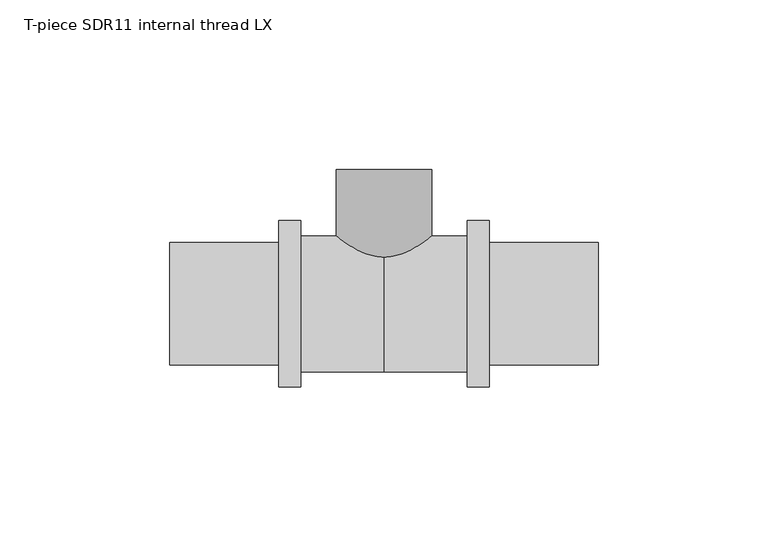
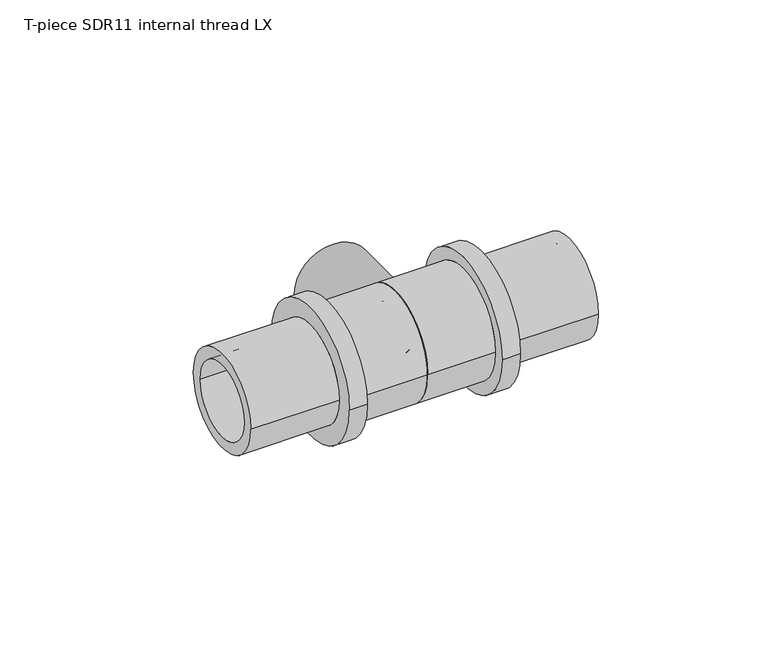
"""IFC4 building model written with IfcOpenShell, lengths in millimetres: pipe fitting geometry, T-piece SDR11 internal thread LX : T-piece LX SDR11 internal LX."""

from ifc_helpers import new_model, si_unit, point, frame, origin, place, context, project, spatial, polyline, circle_curve, ellipse_curve, trimmed, source, transform, mapped, element, save
from ifc_brep_helpers import plane_surface, cylinder_surface, revolved_surface, advanced_brep


def t_piece_sdr11_internal_thread_lx_253700b9(model_context):
    return source(origin(), model_context, "Body", "AdvancedBrep", [
        advanced_brep(
        [(9.85, 9.35, 0.0), (-9.85, 9.35, 0.0), (-9.85, 39.5, 0.0), (9.85, 39.5, 0.0), (0.5, 0.0, 0.0), (-0.5, 0.0, 0.0), (13.2683856, 6.8993993, 0.0), (-13.2683856, 6.8993993, 0.0), (-6.3689863, 0.0, 0.0), (6.3689863, 0.0, 0.0), (14.0, 8.6656727, 0.0), (-14.0, 8.6656727, 0.0), (14.0, 39.5, 0.0), (-14.0, 39.5, 0.0)],
        [
            (0, 1, circle_curve(frame((0.0, 9.35, 0.0), z_axis=(0.0, -1.0, 0.0), x_axis=(-1.0, 0.0, 0.0)), 9.85)),
            (1, 2),
            (2, 3, circle_curve(frame((0.0, 39.5, 0.0), z_axis=(0.0, 1.0, 0.0), x_axis=(-1.0, 0.0, 0.0)), 9.85)),
            (3, 0),
            (4, 5, circle_curve(frame((0.0, 0.0, 0.0), z_axis=(0.0, -1.0, 0.0), x_axis=(-1.0, 0.0, 0.0)), 0.5)),
            (5, 1),
            (0, 4),
            (6, 7, circle_curve(frame((0.0, 6.8993993, 0.0), z_axis=(0.0, -1.0, 0.0), x_axis=(-1.0, 0.0, 0.0)), 13.2683856)),
            (7, 8),
            (8, 9, circle_curve(frame((0.0, 0.0, 0.0), z_axis=(0.0, 1.0, 0.0), x_axis=(-1.0, 0.0, 0.0)), 6.3689863)),
            (9, 6),
            (10, 11, circle_curve(frame((0.0, 8.6656727, 0.0), z_axis=(0.0, -1.0, 0.0), x_axis=(-1.0, 0.0, 0.0)), 14.0)),
            (11, 7, circle_curve(frame((-9.85, 9.35, 0.0), z_axis=(0.0, 0.0, 1.0), x_axis=(0.0, 1.0, 0.0)), 4.2060437)),
            (6, 10, circle_curve(frame((9.85, 9.35, 0.0), z_axis=(0.0, 0.0, 1.0), x_axis=(0.0, 1.0, 0.0)), 4.2060437)),
            (12, 13, circle_curve(frame((0.0, 39.5, 0.0), z_axis=(0.0, -1.0, 0.0), x_axis=(-1.0, 0.0, 0.0)), 14.0)),
            (13, 11),
            (10, 12),
            (12, 13, circle_curve(frame((0.0, 39.5, 0.0), z_axis=(0.0, 1.0, 0.0), x_axis=(1.0, 0.0, 0.0)), 14.0)),
            (2, 3, circle_curve(frame((0.0, 39.5, 0.0), z_axis=(0.0, -1.0, 0.0), x_axis=(1.0, 0.0, 0.0)), 9.85)),
            (1, 0, circle_curve(frame((0.0, 9.35, 0.0), z_axis=(0.0, -1.0, 0.0), x_axis=(1.0, 0.0, 0.0)), 9.85)),
            (5, 4, circle_curve(frame((0.0, 0.0, 0.0), z_axis=(0.0, -1.0, 0.0), x_axis=(1.0, 0.0, 0.0)), 0.5)),
            (8, 9, circle_curve(frame((0.0, 0.0, 0.0), z_axis=(0.0, -1.0, 0.0), x_axis=(1.0, 0.0, 0.0)), 6.3689863)),
            (7, 6, circle_curve(frame((0.0, 6.8993993, 0.0), z_axis=(0.0, -1.0, 0.0), x_axis=(1.0, 0.0, 0.0)), 13.2683856)),
            (11, 10, circle_curve(frame((0.0, 8.6656727, 0.0), z_axis=(0.0, -1.0, 0.0), x_axis=(1.0, 0.0, 0.0)), 14.0)),
        ],
        [
            revolved_surface(polyline([(-9.85, 39.5, 0.0), (-9.85, 9.35, 0.0)]), (0.0, 0.0, 0.0), (0.0, 1.0, 0.0)),
            revolved_surface(polyline([(-9.85, 9.35, 0.0), (-0.5, 0.0, 0.0)]), (0.0, 0.0, 0.0), (0.0, 1.0, 0.0)),
            revolved_surface(polyline([(-6.3689863, 0.0, 0.0), (-13.2683856, 6.8993993, 0.0)]), (0.0, 0.0, 0.0), (0.0, 1.0, 0.0)),
            revolved_surface(trimmed(ellipse_curve(frame((-9.85, 9.35, 0.0), z_axis=(0.0, 0.0, -1.0), x_axis=(0.0, 1.0, 0.0)), 4.2060437, 4.2060437), [point((-13.2683856, 6.8993993, 0.0))], [point((-14.0, 8.6656727, 0.0))], True, "CARTESIAN"), (0.0, 0.0, 0.0), (0.0, 1.0, 0.0)),
            cylinder_surface(frame((0.0, 0.0, 0.0), z_axis=(0.0, 1.0, 0.0), x_axis=(-1.0, 0.0, 0.0)), 14.0),
            plane_surface(frame((0.0, 39.5, 0.0), z_axis=(0.0, 1.0, 0.0), x_axis=(1.0, 0.0, 0.0))),
            revolved_surface(polyline([(9.85, 39.5, 0.0), (9.85, 9.35, 0.0)]), (0.0, 0.0, 0.0), (0.0, 1.0, 0.0)),
            revolved_surface(polyline([(9.85, 9.35, 0.0), (0.5, 0.0, 0.0)]), (0.0, 0.0, 0.0), (0.0, 1.0, 0.0)),
            plane_surface(frame((0.0, 0.0, 0.0), z_axis=(0.0, -1.0, 0.0), x_axis=(1.0, 0.0, 0.0))),
            revolved_surface(polyline([(6.3689863, 0.0, 0.0), (13.2683856, 6.8993993, 0.0)]), (0.0, 0.0, 0.0), (0.0, 1.0, 0.0)),
            revolved_surface(trimmed(ellipse_curve(frame((9.85, 9.35, 0.0), z_axis=(0.0, 0.0, 1.0), x_axis=(0.0, 1.0, 0.0)), 4.2060437, 4.2060437), [point((13.2683856, 6.8993993, 0.0))], [point((14.0, 8.6656727, 0.0))], True, "CARTESIAN"), (0.0, 0.0, 0.0), (0.0, 1.0, 0.0)),
            cylinder_surface(frame((0.0, 0.0, 0.0), z_axis=(0.0, 1.0, 0.0), x_axis=(1.0, 0.0, 0.0)), 14.0),
        ],
        [
            (0, [[1, 2, 3, 4]]),
            (1, [[5, 6, -1, 7]]),
            (2, [[8, 9, 10, 11]]),
            (3, [[12, 13, -8, 14]]),
            (4, [[15, 16, -12, 17]]),
            (5, [[18, -15], [19, -3]]),
            (6, [[20, -4, -19, -2]]),
            (7, [[21, -7, -20, -6]]),
            (8, [[22, -10], [-21, -5]]),
            (9, [[23, -11, -22, -9]]),
            (10, [[24, -14, -23, -13]]),
            (11, [[-18, -17, -24, -16]]),
        ],
    ),
        advanced_brep(
        [(31.0, 24.5, 0.0), (31.0, -24.5, 0.0), (24.5, -24.5, 0.0), (24.5, 24.5, 0.0), (63.0, 18.0, 0.0), (63.0, -18.0, 0.0), (31.0, -18.0, 0.0), (31.0, 18.0, 0.0), (0.0, 13.75, 0.0), (0.0, -13.75, 0.0), (63.0, -13.75, 0.0), (63.0, 13.75, 0.0), (24.5, 20.0, 0.0), (24.5, -20.0, 0.0), (0.0, -20.0, 0.0), (0.0, 20.0, 0.0)],
        [
            (0, 1, circle_curve(frame((31.0, 0.0, 0.0), z_axis=(-1.0, 0.0, 0.0), x_axis=(0.0, -1.0, 0.0)), 24.5)),
            (1, 2),
            (2, 3, circle_curve(frame((24.5, 0.0, 0.0), z_axis=(1.0, 0.0, 0.0), x_axis=(0.0, -1.0, 0.0)), 24.5)),
            (3, 0),
            (4, 5, circle_curve(frame((63.0, 0.0, 0.0), z_axis=(-1.0, 0.0, 0.0), x_axis=(0.0, -1.0, 0.0)), 18.0)),
            (5, 6),
            (6, 7, circle_curve(frame((31.0, 0.0, 0.0), z_axis=(1.0, 0.0, 0.0), x_axis=(0.0, -1.0, 0.0)), 18.0)),
            (7, 4),
            (8, 9, circle_curve(frame((0.0, 0.0, 0.0), z_axis=(-1.0, 0.0, 0.0), x_axis=(0.0, -1.0, 0.0)), 13.75)),
            (9, 10),
            (10, 11, circle_curve(frame((63.0, 0.0, 0.0), z_axis=(1.0, 0.0, 0.0), x_axis=(0.0, -1.0, 0.0)), 13.75)),
            (11, 8),
            (12, 13, circle_curve(frame((24.5, 0.0, 0.0), z_axis=(-1.0, 0.0, 0.0), x_axis=(0.0, -1.0, 0.0)), 20.0)),
            (13, 14),
            (14, 15, circle_curve(frame((0.0, 0.0, 0.0), z_axis=(1.0, 0.0, 0.0), x_axis=(0.0, -1.0, 0.0)), 20.0)),
            (15, 12),
            (1, 0, circle_curve(frame((31.0, 0.0, 0.0), z_axis=(-1.0, 0.0, 0.0), x_axis=(0.0, 1.0, 0.0)), 24.5)),
            (3, 2, circle_curve(frame((24.5, 0.0, 0.0), z_axis=(1.0, 0.0, 0.0), x_axis=(0.0, 1.0, 0.0)), 24.5)),
            (6, 7, circle_curve(frame((31.0, 0.0, 0.0), z_axis=(-1.0, 0.0, 0.0), x_axis=(0.0, 1.0, 0.0)), 18.0)),
            (5, 4, circle_curve(frame((63.0, 0.0, 0.0), z_axis=(-1.0, 0.0, 0.0), x_axis=(0.0, 1.0, 0.0)), 18.0)),
            (10, 11, circle_curve(frame((63.0, 0.0, 0.0), z_axis=(-1.0, 0.0, 0.0), x_axis=(0.0, 1.0, 0.0)), 13.75)),
            (9, 8, circle_curve(frame((0.0, 0.0, 0.0), z_axis=(-1.0, 0.0, 0.0), x_axis=(0.0, 1.0, 0.0)), 13.75)),
            (14, 15, circle_curve(frame((0.0, 0.0, 0.0), z_axis=(-1.0, 0.0, 0.0), x_axis=(0.0, 1.0, 0.0)), 20.0)),
            (13, 12, circle_curve(frame((24.5, 0.0, 0.0), z_axis=(-1.0, 0.0, 0.0), x_axis=(0.0, 1.0, 0.0)), 20.0)),
        ],
        [
            cylinder_surface(frame((0.0, 0.0, 0.0), z_axis=(1.0, 0.0, 0.0), x_axis=(0.0, -1.0, 0.0)), 24.5),
            cylinder_surface(frame((0.0, 0.0, 0.0), z_axis=(1.0, 0.0, 0.0), x_axis=(0.0, -1.0, 0.0)), 18.0),
            revolved_surface(polyline([(63.0, -13.75, 0.0), (0.0, -13.75, 0.0)]), (0.0, 0.0, 0.0), (1.0, 0.0, 0.0)),
            cylinder_surface(frame((0.0, 0.0, 0.0), z_axis=(1.0, 0.0, 0.0), x_axis=(0.0, -1.0, 0.0)), 20.0),
            cylinder_surface(frame((0.0, 0.0, 0.0), z_axis=(1.0, 0.0, 0.0), x_axis=(0.0, 1.0, 0.0)), 24.5),
            plane_surface(frame((31.0, 0.0, 0.0), z_axis=(1.0, 0.0, 0.0), x_axis=(0.0, 1.0, 0.0))),
            cylinder_surface(frame((0.0, 0.0, 0.0), z_axis=(1.0, 0.0, 0.0), x_axis=(0.0, 1.0, 0.0)), 18.0),
            plane_surface(frame((63.0, 0.0, 0.0), z_axis=(1.0, 0.0, 0.0), x_axis=(0.0, 1.0, 0.0))),
            revolved_surface(polyline([(63.0, 13.75, 0.0), (0.0, 13.75, 0.0)]), (0.0, 0.0, 0.0), (1.0, 0.0, 0.0)),
            plane_surface(frame((0.0, 0.0, 0.0), z_axis=(-1.0, 0.0, 0.0), x_axis=(0.0, 1.0, 0.0))),
            cylinder_surface(frame((0.0, 0.0, 0.0), z_axis=(1.0, 0.0, 0.0), x_axis=(0.0, 1.0, 0.0)), 20.0),
            plane_surface(frame((24.5, 0.0, 0.0), z_axis=(-1.0, 0.0, 0.0), x_axis=(0.0, 1.0, 0.0))),
        ],
        [
            (0, [[1, 2, 3, 4]]),
            (1, [[5, 6, 7, 8]]),
            (2, [[9, 10, 11, 12]]),
            (3, [[13, 14, 15, 16]]),
            (4, [[17, -4, 18, -2]]),
            (5, [[-17, -1], [19, -7]]),
            (6, [[20, -8, -19, -6]]),
            (7, [[-20, -5], [21, -11]]),
            (8, [[22, -12, -21, -10]]),
            (9, [[23, -15], [-22, -9]]),
            (10, [[24, -16, -23, -14]]),
            (11, [[-18, -3], [-24, -13]]),
        ],
    ),
        advanced_brep(
        [(0.0, 20.0, 0.0), (0.0, -20.0, 0.0), (-24.5, -20.0, 0.0), (-24.5, 20.0, 0.0), (-63.0, 13.75, 0.0), (-63.0, -13.75, 0.0), (0.0, -13.75, 0.0), (0.0, 13.75, 0.0), (-31.0, 18.0, 0.0), (-31.0, -18.0, 0.0), (-63.0, -18.0, 0.0), (-63.0, 18.0, 0.0), (-24.5, 24.5, 0.0), (-24.5, -24.5, 0.0), (-31.0, -24.5, 0.0), (-31.0, 24.5, 0.0)],
        [
            (0, 1, circle_curve(frame((0.0, 0.0, 0.0), z_axis=(-1.0, 0.0, 0.0), x_axis=(0.0, -1.0, 0.0)), 20.0)),
            (1, 2),
            (2, 3, circle_curve(frame((-24.5, 0.0, 0.0), z_axis=(1.0, 0.0, 0.0), x_axis=(0.0, -1.0, 0.0)), 20.0)),
            (3, 0),
            (4, 5, circle_curve(frame((-63.0, 0.0, 0.0), z_axis=(-1.0, 0.0, 0.0), x_axis=(0.0, -1.0, 0.0)), 13.75)),
            (5, 6),
            (6, 7, circle_curve(frame((0.0, 0.0, 0.0), z_axis=(1.0, 0.0, 0.0), x_axis=(0.0, -1.0, 0.0)), 13.75)),
            (7, 4),
            (8, 9, circle_curve(frame((-31.0, 0.0, 0.0), z_axis=(-1.0, 0.0, 0.0), x_axis=(0.0, -1.0, 0.0)), 18.0)),
            (9, 10),
            (10, 11, circle_curve(frame((-63.0, 0.0, 0.0), z_axis=(1.0, 0.0, 0.0), x_axis=(0.0, -1.0, 0.0)), 18.0)),
            (11, 8),
            (12, 13, circle_curve(frame((-24.5, 0.0, 0.0), z_axis=(-1.0, 0.0, 0.0), x_axis=(0.0, -1.0, 0.0)), 24.5)),
            (13, 14),
            (14, 15, circle_curve(frame((-31.0, 0.0, 0.0), z_axis=(1.0, 0.0, 0.0), x_axis=(0.0, -1.0, 0.0)), 24.5)),
            (15, 12),
            (12, 13, circle_curve(frame((-24.5, 0.0, 0.0), z_axis=(1.0, 0.0, 0.0), x_axis=(0.0, 1.0, 0.0)), 24.5)),
            (2, 3, circle_curve(frame((-24.5, 0.0, 0.0), z_axis=(-1.0, 0.0, 0.0), x_axis=(0.0, 1.0, 0.0)), 20.0)),
            (1, 0, circle_curve(frame((0.0, 0.0, 0.0), z_axis=(-1.0, 0.0, 0.0), x_axis=(0.0, 1.0, 0.0)), 20.0)),
            (6, 7, circle_curve(frame((0.0, 0.0, 0.0), z_axis=(-1.0, 0.0, 0.0), x_axis=(0.0, 1.0, 0.0)), 13.75)),
            (5, 4, circle_curve(frame((-63.0, 0.0, 0.0), z_axis=(-1.0, 0.0, 0.0), x_axis=(0.0, 1.0, 0.0)), 13.75)),
            (10, 11, circle_curve(frame((-63.0, 0.0, 0.0), z_axis=(-1.0, 0.0, 0.0), x_axis=(0.0, 1.0, 0.0)), 18.0)),
            (9, 8, circle_curve(frame((-31.0, 0.0, 0.0), z_axis=(-1.0, 0.0, 0.0), x_axis=(0.0, 1.0, 0.0)), 18.0)),
            (14, 15, circle_curve(frame((-31.0, 0.0, 0.0), z_axis=(-1.0, 0.0, 0.0), x_axis=(0.0, 1.0, 0.0)), 24.5)),
        ],
        [
            cylinder_surface(frame((0.0, 0.0, 0.0), z_axis=(1.0, 0.0, 0.0), x_axis=(0.0, -1.0, 0.0)), 20.0),
            revolved_surface(polyline([(0.0, -13.75, 0.0), (-63.0, -13.75, 0.0)]), (0.0, 0.0, 0.0), (1.0, 0.0, 0.0)),
            cylinder_surface(frame((0.0, 0.0, 0.0), z_axis=(1.0, 0.0, 0.0), x_axis=(0.0, -1.0, 0.0)), 18.0),
            cylinder_surface(frame((0.0, 0.0, 0.0), z_axis=(1.0, 0.0, 0.0), x_axis=(0.0, -1.0, 0.0)), 24.5),
            plane_surface(frame((-24.5, 0.0, 0.0), z_axis=(1.0, 0.0, 0.0), x_axis=(0.0, 1.0, 0.0))),
            cylinder_surface(frame((0.0, 0.0, 0.0), z_axis=(1.0, 0.0, 0.0), x_axis=(0.0, 1.0, 0.0)), 20.0),
            plane_surface(frame((0.0, 0.0, 0.0), z_axis=(1.0, 0.0, 0.0), x_axis=(0.0, 1.0, 0.0))),
            revolved_surface(polyline([(0.0, 13.75, 0.0), (-63.0, 13.75, 0.0)]), (0.0, 0.0, 0.0), (1.0, 0.0, 0.0)),
            plane_surface(frame((-63.0, 0.0, 0.0), z_axis=(-1.0, 0.0, 0.0), x_axis=(0.0, 1.0, 0.0))),
            cylinder_surface(frame((0.0, 0.0, 0.0), z_axis=(1.0, 0.0, 0.0), x_axis=(0.0, 1.0, 0.0)), 18.0),
            plane_surface(frame((-31.0, 0.0, 0.0), z_axis=(-1.0, 0.0, 0.0), x_axis=(0.0, 1.0, 0.0))),
            cylinder_surface(frame((0.0, 0.0, 0.0), z_axis=(1.0, 0.0, 0.0), x_axis=(0.0, 1.0, 0.0)), 24.5),
        ],
        [
            (0, [[1, 2, 3, 4]]),
            (1, [[5, 6, 7, 8]]),
            (2, [[9, 10, 11, 12]]),
            (3, [[13, 14, 15, 16]]),
            (4, [[17, -13], [18, -3]]),
            (5, [[19, -4, -18, -2]]),
            (6, [[-19, -1], [20, -7]]),
            (7, [[21, -8, -20, -6]]),
            (8, [[22, -11], [-21, -5]]),
            (9, [[23, -12, -22, -10]]),
            (10, [[24, -15], [-23, -9]]),
            (11, [[-17, -16, -24, -14]]),
        ],
    ),
    ])


if __name__ == "__main__":
    model = new_model("IFC4")
    model_context = context("Model", 3, world=origin())
    ifc_project = project(units=[si_unit("LENGTHUNIT", "METRE", prefix="MILLI")], contexts=[model_context])
    site = spatial("IfcSite", under=ifc_project)
    building = spatial("IfcBuilding", under=site)
    placement = place(None, origin())
    t_piece_sdr11_internal_thread_lx_shape = t_piece_sdr11_internal_thread_lx_253700b9(model_context)
    element("IfcPipeFitting", 1, ObjectType="T-piece SDR11 internal thread LX : T-piece LX SDR11 internal LX", at=placement, inside=building, context=model_context, shape_type="MappedRepresentation", body=[
        mapped(t_piece_sdr11_internal_thread_lx_shape, transform((0.0, 0.0, 0.0), x_axis=(1.0, 0.0, 0.0), y_axis=(0.0, 1.0, 0.0), z_axis=(0.0, 0.0, 1.0))),
    ])
    save(model, "model.ifc")
